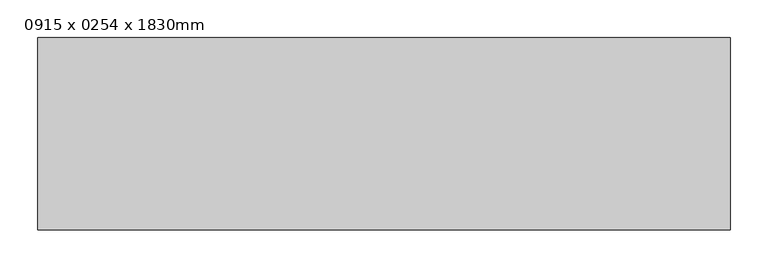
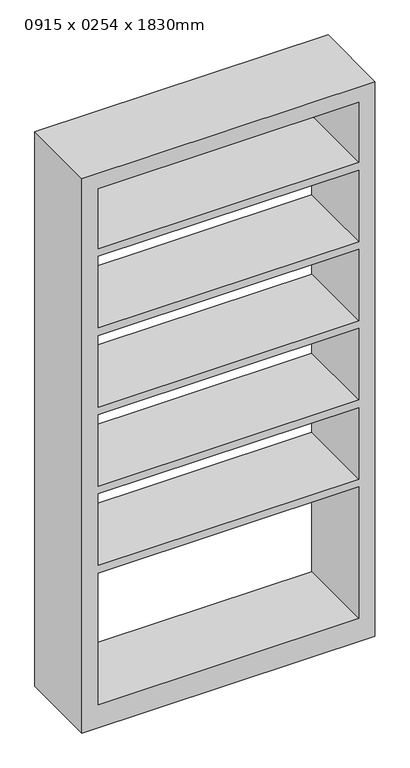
"""IFC4 building model written with IfcOpenShell, lengths in millimetres: furniture geometry, PolicovaSkrin : 0915 x 0254 x 1830mm."""

from ifc_helpers import new_model, si_unit, frame, origin, place, context, project, spatial, polyline, outline, extrude, source, transform, mapped, element, save


def furniture_0915_x_0254_x_1830mm_1d5e155e(model_context):
    return source(origin(), model_context, "Body", "SweptSolid", [
        extrude(outline(polyline([(0.0, 457.5), (1830.0, 457.5), (1830.0, -457.5), (0.0, -457.5), (0.0, 457.5)]), holes=[polyline([(1779.2, 406.7), (1581.2714286, 406.7), (1581.2714286, -406.7), (1779.2, -406.7), (1779.2, 406.7)]), polyline([(76.2, 406.7), (76.2, -406.7), (510.1571429, -406.7), (510.1571429, 406.7), (76.2, 406.7)]), polyline([(1058.4142857, -406.7), (1294.4428571, -406.7), (1294.4428571, 406.7), (1058.4142857, 406.7), (1058.4142857, -406.7)]), polyline([(1555.8714286, 406.7), (1319.8428571, 406.7), (1319.8428571, -406.7), (1555.8714286, -406.7), (1555.8714286, 406.7)]), polyline([(1033.0142857, 406.7), (796.9857143, 406.7), (796.9857143, -406.7), (1033.0142857, -406.7), (1033.0142857, 406.7)]), polyline([(771.5857143, 406.7), (535.5571429, 406.7), (535.5571429, -406.7), (771.5857143, -406.7), (771.5857143, 406.7)])]), frame((0.0, -431.8, 0.0), z_axis=(0.0, 1.0, 0.0), x_axis=(0.0, 0.0, 1.0)), (0.0, 0.0, 1.0), 254.0),
    ])


if __name__ == "__main__":
    model = new_model("IFC4")
    model_context = context("Model", 3, world=origin())
    ifc_project = project(units=[si_unit("LENGTHUNIT", "METRE", prefix="MILLI")], contexts=[model_context])
    site = spatial("IfcSite", under=ifc_project)
    building = spatial("IfcBuilding", under=site)
    placement = place(None, origin())
    furniture_0915_x_0254_x_1830mm_shape = furniture_0915_x_0254_x_1830mm_1d5e155e(model_context)
    element("IfcFurniture", 1, ObjectType="PolicovaSkrin : 0915 x 0254 x 1830mm", at=placement, inside=building, context=model_context, shape_type="MappedRepresentation", body=[
        mapped(furniture_0915_x_0254_x_1830mm_shape, transform((0.0, 0.0, 0.0), x_axis=(1.0, 0.0, 0.0), y_axis=(0.0, 1.0, 0.0), z_axis=(0.0, 0.0, 1.0))),
    ])
    save(model, "model.ifc")
